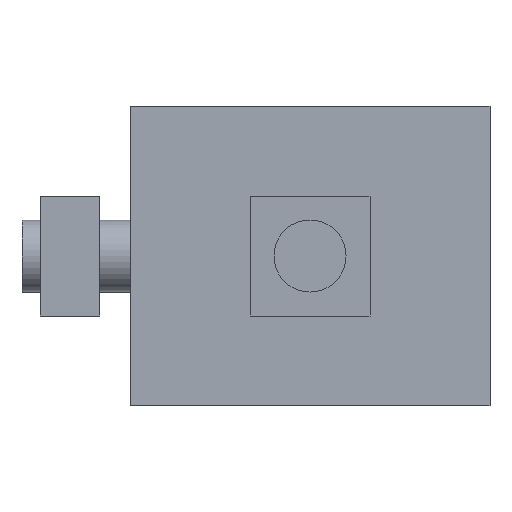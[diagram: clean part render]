
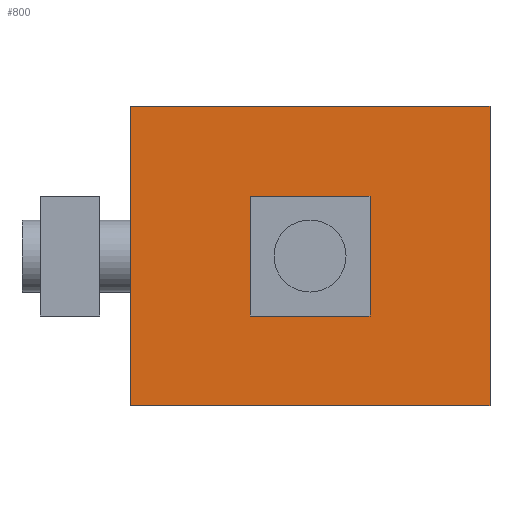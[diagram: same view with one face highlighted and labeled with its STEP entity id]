
A CAD part, front view. The second image highlights one B-rep face of the part: STEP entity #800.
In plain terms, the highlighted planar face has unit normal (0, -1, 0).
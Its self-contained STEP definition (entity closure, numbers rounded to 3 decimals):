
#151=CARTESIAN_POINT('',(11.7,0.,0.));
#152=VERTEX_POINT('',#151);
#153=CARTESIAN_POINT('',(15.0,0.,0.0));
#154=DIRECTION('',(0.0,1.0,0.0));
#155=DIRECTION('',(-1.0,0.0,0.0));
#156=AXIS2_PLACEMENT_3D('',#153,#154,#155);
#157=CIRCLE('',#156,3.3);
#158=EDGE_CURVE('',#152,#152,#157,.T.);
#437=CARTESIAN_POINT('',(0.0,0.0,-12.5));
#438=VERTEX_POINT('',#437);
#439=CARTESIAN_POINT('',(30.0,0.,-12.5));
#440=VERTEX_POINT('',#439);
#441=CARTESIAN_POINT('',(0.0,0.0,-12.5));
#442=DIRECTION('',(1.0,0.0,0.0));
#443=VECTOR('',#442,30.0);
#444=LINE('',#441,#443);
#445=EDGE_CURVE('',#438,#440,#444,.T.);
#755=CARTESIAN_POINT('',(30.0,0.,12.5));
#756=VERTEX_POINT('',#755);
#763=CARTESIAN_POINT('',(30.0,0.,12.5));
#764=DIRECTION('',(0.0,0.0,-1.0));
#765=VECTOR('',#764,25.0);
#766=LINE('',#763,#765);
#767=EDGE_CURVE('',#756,#440,#766,.T.);
#774=CARTESIAN_POINT('',(30.0,0.,0.0));
#775=DIRECTION('',(0.0,-1.0,0.0));
#776=DIRECTION('',(0.0,0.0,-1.0));
#777=AXIS2_PLACEMENT_3D('',#774,#775,#776);
#778=PLANE('',#777);
#779=CARTESIAN_POINT('',(0.0,0.0,12.5));
#780=VERTEX_POINT('',#779);
#781=CARTESIAN_POINT('',(30.0,0.,12.5));
#782=DIRECTION('',(-1.0,0.0,0.0));
#783=VECTOR('',#782,30.0);
#784=LINE('',#781,#783);
#785=EDGE_CURVE('',#756,#780,#784,.T.);
#786=ORIENTED_EDGE('',*,*,#785,.T.);
#787=CARTESIAN_POINT('',(0.0,0.0,-12.5));
#788=DIRECTION('',(0.0,0.0,1.0));
#789=VECTOR('',#788,25.0);
#790=LINE('',#787,#789);
#791=EDGE_CURVE('',#438,#780,#790,.T.);
#792=ORIENTED_EDGE('',*,*,#791,.F.);
#793=ORIENTED_EDGE('',*,*,#445,.T.);
#794=ORIENTED_EDGE('',*,*,#767,.F.);
#795=EDGE_LOOP('',(#786,#792,#793,#794));
#796=FACE_OUTER_BOUND('',#795,.T.);
#797=ORIENTED_EDGE('',*,*,#158,.T.);
#798=EDGE_LOOP('',(#797));
#799=FACE_BOUND('',#798,.T.);
#800=ADVANCED_FACE('',(#796,#799),#778,.T.);
